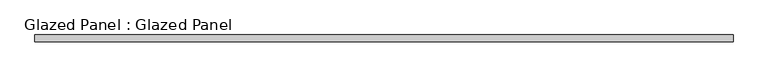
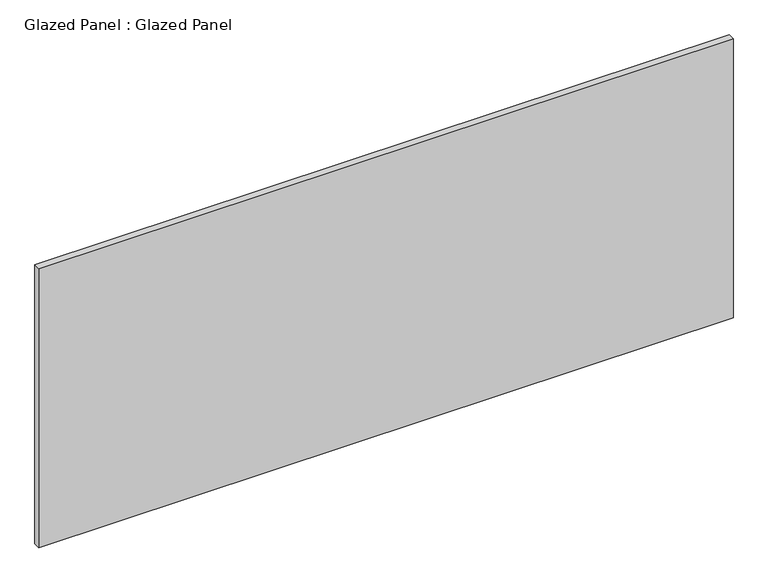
"""IFC4 building model written with IfcOpenShell, lengths in millimetres: plate geometry, Glazed Panel : Glazed Panel."""

from ifc_helpers import new_model, si_unit, origin, origin_with_axes, place, context, project, spatial, polyline, outline, extrude, source, transform, mapped, element, save


def glazed_panel_glazed_panel_514b6ab9(model_context):
    return source(origin(), model_context, "Body", "SweptSolid", [
        extrude(outline(polyline([(1323.084834, 38.1), (-1323.084834, 38.1), (-1323.084834, 63.5), (1323.084834, 63.5), (1323.084834, 38.1)])), origin_with_axes(), (0.0, 0.0, 1.0), 1123.95),
    ])


if __name__ == "__main__":
    model = new_model("IFC4")
    model_context = context("Model", 3, world=origin())
    ifc_project = project(units=[si_unit("LENGTHUNIT", "METRE", prefix="MILLI")], contexts=[model_context])
    site = spatial("IfcSite", under=ifc_project)
    building = spatial("IfcBuilding", under=site)
    placement = place(None, origin())
    glazed_panel_glazed_panel_shape = glazed_panel_glazed_panel_514b6ab9(model_context)
    element("IfcPlate", 1, ObjectType="Glazed Panel : Glazed Panel", at=placement, inside=building, context=model_context, shape_type="MappedRepresentation", body=[
        mapped(glazed_panel_glazed_panel_shape, transform((0.0, 0.0, 0.0), x_axis=(1.0, 0.0, 0.0), y_axis=(0.0, 1.0, 0.0), z_axis=(0.0, 0.0, 1.0))),
    ])
    save(model, "model.ifc")
